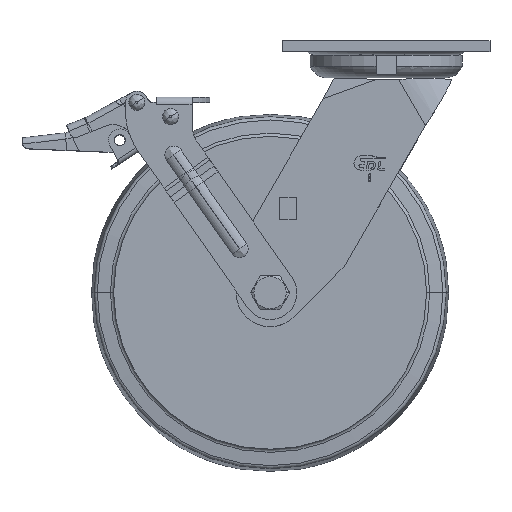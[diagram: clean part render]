
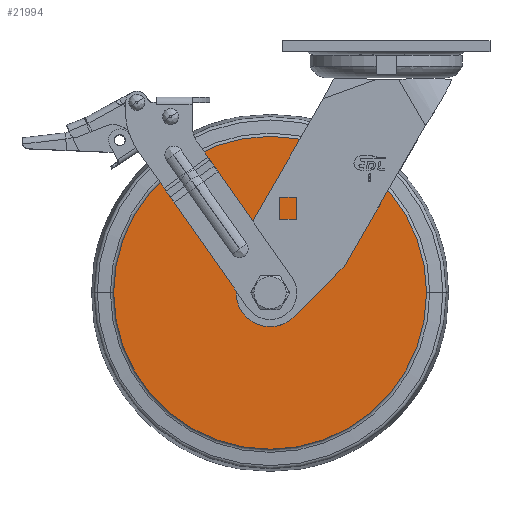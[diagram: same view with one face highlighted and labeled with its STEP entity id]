
A CAD part, top view. The second image highlights one B-rep face of the part: STEP entity #21994.
In plain terms, the highlighted planar face has unit normal (0, 0, 1) as drawn and (-1, 0, 0) by its records, which use the part's own axes.
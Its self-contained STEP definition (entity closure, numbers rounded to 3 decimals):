
#21639=CARTESIAN_POINT('',(-25.,0.,0.));
#21640=DIRECTION('',(-1.,0.,0.));
#21641=DIRECTION('',(0.,1.,0.));
#21642=AXIS2_PLACEMENT_3D('',#21639,#21640,#21641);
#21644=CARTESIAN_POINT('',(-25.,0.,0.));
#21645=DIRECTION('',(1.,0.,0.));
#21646=DIRECTION('',(0.,1.,0.));
#21647=AXIS2_PLACEMENT_3D('',#21644,#21645,#21646);
#21649=CARTESIAN_POINT('',(-25.,0.,0.));
#21650=DIRECTION('',(1.,0.,0.));
#21651=DIRECTION('',(0.,1.,0.));
#21652=AXIS2_PLACEMENT_3D('',#21649,#21650,#21651);
#21662=CARTESIAN_POINT('',(-25.,0.,0.));
#21663=DIRECTION('',(-1.,0.,0.));
#21664=DIRECTION('',(0.,1.,0.));
#21665=AXIS2_PLACEMENT_3D('',#21662,#21663,#21664);
#21913=CARTESIAN_POINT('',(-25.,12.,0.));
#21915=VERTEX_POINT('',#21913);
#21943=CARTESIAN_POINT('',(-25.,87.5,0.));
#21944=VERTEX_POINT('',#21943);
#21945=CARTESIAN_POINT('',(-25.,-12.,0.));
#21947=VERTEX_POINT('',#21945);
#21975=CARTESIAN_POINT('',(-25.,-87.5,0.));
#21976=VERTEX_POINT('',#21975);
#21977=CARTESIAN_POINT('',(-25.,0.,0.));
#21978=DIRECTION('',(1.,0.,0.));
#21979=DIRECTION('',(0.,-1.,0.));
#21980=AXIS2_PLACEMENT_3D('',#21977,#21978,#21979);
#21981=PLANE('',#21980);
#21983=ORIENTED_EDGE('',*,*,#21982,.F.);
#21985=ORIENTED_EDGE('',*,*,#21984,.T.);
#21986=EDGE_LOOP('',(#21983,#21985));
#21987=FACE_OUTER_BOUND('',#21986,.F.);
#21989=ORIENTED_EDGE('',*,*,#21988,.F.);
#21991=ORIENTED_EDGE('',*,*,#21990,.T.);
#21992=EDGE_LOOP('',(#21989,#21991));
#21993=FACE_BOUND('',#21992,.F.);
#21643=CIRCLE('',#21642,87.5);
#21648=CIRCLE('',#21647,87.5);
#21653=CIRCLE('',#21652,12.);
#21666=CIRCLE('',#21665,12.);
#21982=EDGE_CURVE('',#21944,#21976,#21643,.T.);
#21984=EDGE_CURVE('',#21944,#21976,#21648,.T.);
#21988=EDGE_CURVE('',#21915,#21947,#21653,.T.);
#21990=EDGE_CURVE('',#21915,#21947,#21666,.T.);
#21994=ADVANCED_FACE('',(#21987,#21993),#21981,.F.);
